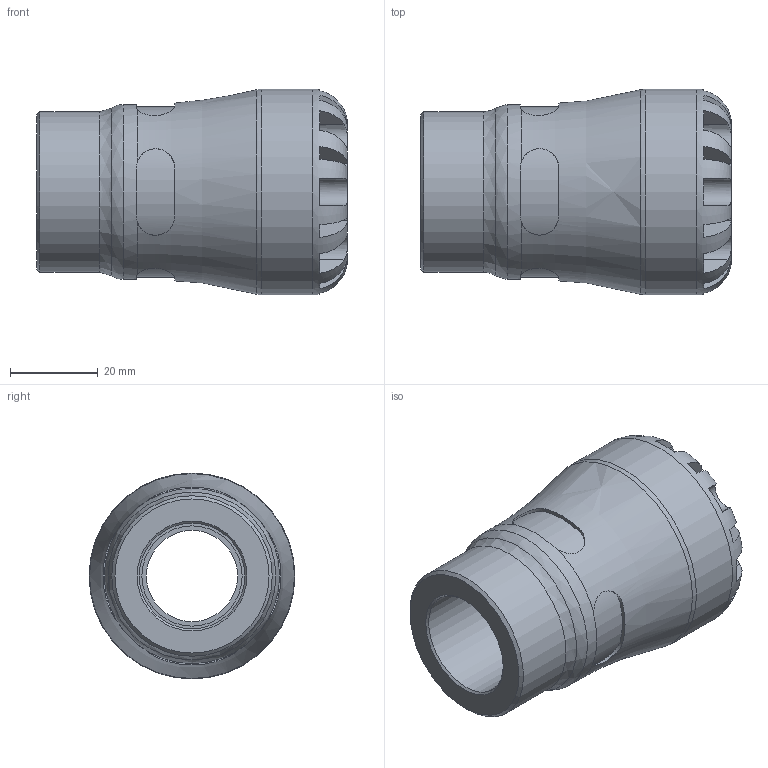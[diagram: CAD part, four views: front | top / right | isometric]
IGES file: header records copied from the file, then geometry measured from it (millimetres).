
Global section: file name: 100300025007_190300025007.ipt; native system: Autodesk Inventor 2015; preprocessor: unknown; author: KIM; date: 20170122.094940; units: millimetre
Bounding box: 71 x 47 x 47 mm (x, y, z)
Volume: 61478.9 mm3; surface area: 17725 mm2
Topology: 1 solids, 1 shells, 104 faces, 279 edges, 180 vertices
Faces by surface type: plane 61, revolution 27, cylinder 15, cone 1
Full cylindrical faces by diameter (mm): 36.66 x1, 39.95 x1, 47 x1
